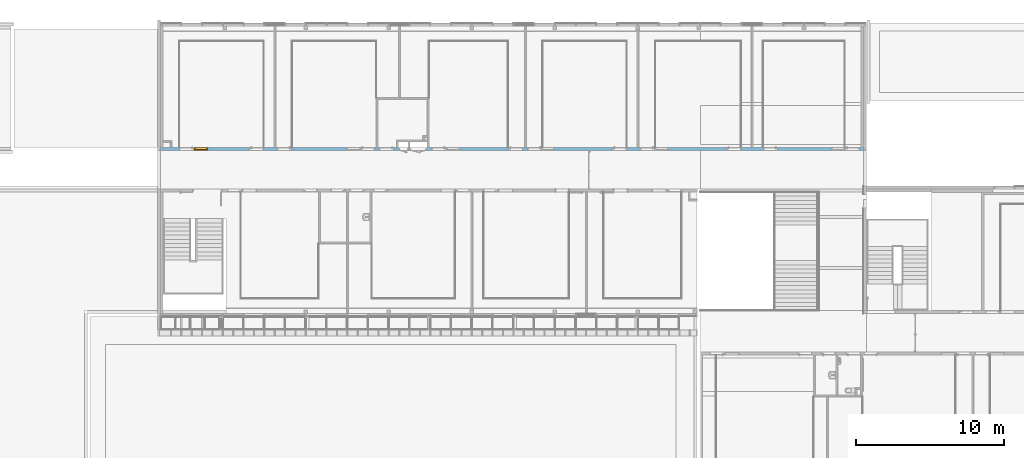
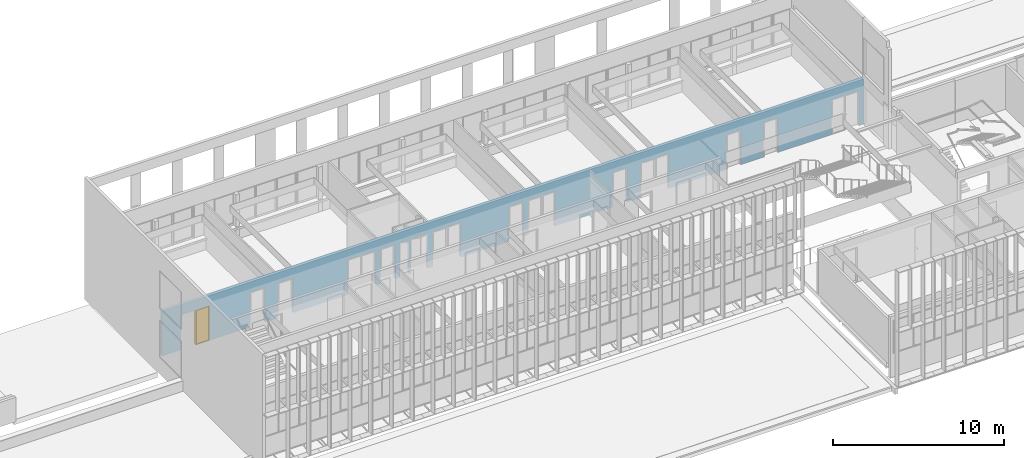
# One storey, part 97 of 106: 1 window, 21 openings, plus 1 element that does not belong to this part.
"""IFC2X3 building model written with IfcOpenShell, lengths in centimetres."""

from ifc_helpers import new_model, entity, si_unit, converted_unit, derived_unit, direction, frame, frame_2d, origin, place, context, subcontext, project, spatial, polyline, rectangle, extrude, clip, bounded_halfspace, faceted_brep, source, transform, mapped, material, material_list, layer, layer_set, layer_usage, type_object, type_shapes, element, fill, save


model = new_model("IFC2X3")

# Units and contexts
model_context = context("Model", 3, precision=0.001, world=origin(), true_north=direction((6.12303176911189e-17, 1.0)))
body_context = subcontext(model_context, "Body", "Model", "MODEL_VIEW")
ifc_project = project(units=[si_unit("LENGTHUNIT", "METRE", prefix="CENTI"), si_unit("AREAUNIT", "SQUARE_METRE"), si_unit("VOLUMEUNIT", "CUBIC_METRE"), converted_unit("PLANEANGLEUNIT", "DEGREE", entity("IfcRatioMeasure", 0.0174532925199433), si_unit("PLANEANGLEUNIT", "RADIAN"), dimensions=[0, 0, 0, 0, 0, 0, 0]), si_unit("MASSUNIT", "GRAM", prefix="KILO"), derived_unit("MASSDENSITYUNIT", [(si_unit("MASSUNIT", "GRAM", prefix="KILO"), 1), (si_unit("LENGTHUNIT", "METRE"), -3)]), si_unit("TIMEUNIT", "SECOND"), si_unit("FREQUENCYUNIT", "HERTZ"), si_unit("THERMODYNAMICTEMPERATUREUNIT", "DEGREE_CELSIUS"), derived_unit("THERMALTRANSMITTANCEUNIT", [(si_unit("MASSUNIT", "GRAM", prefix="KILO"), 1), (si_unit("THERMODYNAMICTEMPERATUREUNIT", "KELVIN"), -1), (si_unit("TIMEUNIT", "SECOND"), -3)]), derived_unit("VOLUMETRICFLOWRATEUNIT", [(si_unit("LENGTHUNIT", "METRE"), 3), (si_unit("TIMEUNIT", "SECOND"), -1)]), si_unit("ELECTRICCURRENTUNIT", "AMPERE"), si_unit("ELECTRICVOLTAGEUNIT", "VOLT"), si_unit("POWERUNIT", "WATT"), si_unit("FORCEUNIT", "NEWTON", prefix="KILO"), si_unit("ILLUMINANCEUNIT", "LUX"), si_unit("LUMINOUSFLUXUNIT", "LUMEN"), si_unit("LUMINOUSINTENSITYUNIT", "CANDELA"), derived_unit("USERDEFINED", [(si_unit("MASSUNIT", "GRAM", prefix="KILO"), -1), (si_unit("LENGTHUNIT", "METRE"), -2), (si_unit("TIMEUNIT", "SECOND"), 3), (si_unit("LUMINOUSFLUXUNIT", "LUMEN"), 1)]), derived_unit("LINEARVELOCITYUNIT", [(si_unit("LENGTHUNIT", "METRE"), 1), (si_unit("TIMEUNIT", "SECOND"), -1)]), si_unit("PRESSUREUNIT", "PASCAL"), derived_unit("USERDEFINED", [(si_unit("LENGTHUNIT", "METRE"), -2), (si_unit("MASSUNIT", "GRAM", prefix="KILO"), 1), (si_unit("TIMEUNIT", "SECOND"), -2)])], contexts=[model_context])

# Site, building, storey
site_placement = place(None, frame((-2781.94577612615, 7442.24238424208, 0.0)))
site = spatial("IfcSite", under=ifc_project, at=site_placement, Name="Default", CompositionType="ELEMENT")
building_placement = place(site_placement, origin())
building = spatial("IfcBuilding", under=site, at=building_placement, CompositionType="ELEMENT")
storey_placement = place(building_placement, frame((0.0, 0.0, 422.0)))
storey = spatial("IfcBuildingStorey", under=building, at=storey_placement, Name="Toiture - Cuisine", CompositionType="ELEMENT", Elevation=421.999999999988)

# Wall, openings, window
ifc_material_1 = material(Name="01 - Maçonnerie")
ifc_layer = layer(ifc_material_1, 20.0)
ifc_layer_set = layer_set([ifc_layer], Name="Mur de base:04 - Structure - béton - 20cm")
ifc_layer_usage = layer_usage(ifc_layer_set, "AXIS2", "NEGATIVE", 10.0)
wall_type = type_object("IfcWallType", Name="Mur de base:04 - Structure - béton - 20cm", PredefinedType="STANDARD", material=ifc_layer_set)
wall_placement = place(building_placement, frame((-8409.49987766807, -820.048500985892, 422.0)))
wall = element("IfcWallStandardCase", 1, at=wall_placement, inside=storey, type_object=wall_type, material=ifc_layer_usage, Name="Mur de base:04 - Structure - béton - 20cm", ObjectType="Mur de base:04 - Structure - béton - 20cm", context=body_context, shape_type="Clipping", body=[
    clip(extrude(rectangle(XDim=4741.49999798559, YDim=20.0, at=frame_2d((2370.74999899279, 2.04281036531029e-14), x_axis=(-1.0, 0.0))), origin(), (0.0, 0.0, 1.0), 321.0), bounded_halfspace(frame((4741.49999798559, -10.0, 321.0), z_axis=(0.0, 0.0, -1.0), x_axis=(0.0, 1.0, 0.0)), True, frame((4741.49999798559, -10.0, 321.0)), polyline([(0.0, 0.0), (0.0, 20.0), (-15.3000000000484, 20.0), (-125.300000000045, 20.0), (-127.300000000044, 20.0), (-675.800000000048, 20.0), (-677.800000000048, 20.0), (-745.800000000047, 20.0), (-755.800000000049, 20.0), (-825.800000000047, 20.0), (-827.800000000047, 20.0), (-1403.80000000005, 20.0), (-1405.80000000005, 20.0), (-1516.49999791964, 20.0), (-1526.49999791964, 20.0), (-1595.78709704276, 20.0), (-1597.78709704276, 20.0), (-2163.80000000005, 20.0), (-2165.80000000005, 20.0), (-2275.80000000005, 20.0), (-2285.80000000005, 20.0), (-2395.80000000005, 20.0), (-2397.80000000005, 20.0), (-2931.80000000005, 20.0), (-2941.80000000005, 20.0), (-3060.80000000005, 20.0), (-3070.80000000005, 20.0), (-3137.80000000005, 20.0), (-3147.80000000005, 20.0), (-3275.80000000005, 20.0), (-3285.80000000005, 20.0), (-3416.49999791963, 20.0), (-3535.80000000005, 20.0), (-3545.80000000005, 20.0), (-3611.80000000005, 20.0), (-3853.80000000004, 20.0), (-3855.80000000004, 20.0), (-3965.80000000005, 20.0), (-3975.80000000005, 20.0), (-4044.30000000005, 20.0), (-4046.30000000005, 20.0), (-4614.19999798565, 20.0), (-4616.19999798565, 20.0), (-4666.19999798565, 20.0), (-4676.19999798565, 20.0), (-4726.19999798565, 20.0), (-4741.49999798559, 20.0), (-4741.49999798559, 0.0), (-1854.0, 0.0), (-1844.0, 0.0), (-1840.0, 0.0), (0.0, 0.0)]))),
])
opening_1_placement = place(wall_placement, frame((1669.50000006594, 10.0, 0.0)))
element("IfcOpeningElement", 2, at=opening_1_placement, cuts=wall, Name="Int. Simple:PP Placard (0.55m x 2.50m):1", ObjectType="Opening", context=body_context, shape_type="SweptSolid", body=[
    extrude(rectangle(XDim=248.500000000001, YDim=61.9999999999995, at=frame_2d((124.250000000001, 30.9999999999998), x_axis=(1.0, 0.0))), frame((0.0, 0.0, 0.0), z_axis=(0.0, -1.0, 0.0), x_axis=(0.0, 0.0, 1.0)), (0.0, 0.0, 1.0), 20.0),
])
opening_2_placement = place(wall_placement, frame((1794.50000006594, 10.0, 0.0)))
element("IfcOpeningElement", 3, at=opening_2_placement, cuts=wall, Name="Int. Double:PP Placard (1.05m x 2.50m):1", ObjectType="Opening", context=body_context, shape_type="SweptSolid", body=[
    extrude(rectangle(XDim=248.500000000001, YDim=112.0, at=frame_2d((124.250000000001, 56.0000000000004), x_axis=(1.0, 0.0))), frame((0.0, 0.0, 0.0), z_axis=(0.0, -1.0, 0.0), x_axis=(0.0, 0.0, 1.0)), (0.0, 0.0, 1.0), 20.0),
])
opening_3_placement = place(wall_placement, frame((126.799999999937, -10.0, 0.0)))
element("IfcOpeningElement", 4, at=opening_3_placement, cuts=wall, Name="Int. Simple:PV (0.93m x 2.50m):1", ObjectType="Opening", context=body_context, shape_type="SweptSolid", body=[
    extrude(rectangle(XDim=248.500000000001, YDim=99.9999999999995, at=frame_2d((124.250000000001, 50.0), x_axis=(1.0, 0.0))), frame((0.0, 0.0, 0.0), z_axis=(0.0, 1.0, 0.0), x_axis=(0.0, 0.0, 1.0)), (0.0, 0.0, 1.0), 20.0),
])
opening_4_placement = place(wall_placement, frame((595.699997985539, -10.0, 0.0)))
element("IfcOpeningElement", 5, at=opening_4_placement, cuts=wall, Name="Int. Simple:PV (0.93m x 2.50m):1", ObjectType="Opening", context=body_context, shape_type="SweptSolid", body=[
    extrude(rectangle(XDim=248.500000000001, YDim=99.9999999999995, at=frame_2d((124.250000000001, 49.9999999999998), x_axis=(1.0, 0.0))), frame((0.0, 0.0, 0.0), z_axis=(0.0, 1.0, 0.0), x_axis=(0.0, 0.0, 1.0)), (0.0, 0.0, 1.0), 20.0),
])
opening_5_placement = place(wall_placement, frame((785.699997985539, -10.0, 0.0)))
element("IfcOpeningElement", 6, at=opening_5_placement, cuts=wall, Name="Int. Simple:PV (0.93m x 2.50m):1", ObjectType="Opening", context=body_context, shape_type="SweptSolid", body=[
    extrude(rectangle(XDim=248.500000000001, YDim=99.9999999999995, at=frame_2d((124.250000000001, 50.0), x_axis=(1.0, 0.0))), frame((0.0, 0.0, 0.0), z_axis=(0.0, 1.0, 0.0), x_axis=(0.0, 0.0, 1.0)), (0.0, 0.0, 1.0), 20.0),
])
opening_6_placement = place(wall_placement, frame((1345.69999798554, -10.0, 0.0)))
element("IfcOpeningElement", 7, at=opening_6_placement, cuts=wall, Name="Int. Simple:PV (0.93m x 2.50m):1", ObjectType="Opening", context=body_context, shape_type="SweptSolid", body=[
    extrude(rectangle(XDim=248.500000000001, YDim=99.9999999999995, at=frame_2d((124.250000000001, 49.9999999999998), x_axis=(1.0, 0.0))), frame((0.0, 0.0, 0.0), z_axis=(0.0, 1.0, 0.0), x_axis=(0.0, 0.0, 1.0)), (0.0, 0.0, 1.0), 20.0),
])
opening_7_placement = place(wall_placement, frame((1475.69999798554, -10.0, 0.0)))
element("IfcOpeningElement", 8, at=opening_7_placement, cuts=wall, Name="Int. Simple:PP simple (0.93m x 2.50m):1", ObjectType="Opening", context=body_context, shape_type="SweptSolid", body=[
    extrude(rectangle(XDim=248.500000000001, YDim=99.9999999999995, at=frame_2d((124.250000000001, 50.0), x_axis=(1.0, 0.0))), frame((0.0, 0.0, 0.0), z_axis=(0.0, 1.0, 0.0), x_axis=(0.0, 0.0, 1.0)), (0.0, 0.0, 1.0), 20.0),
])
opening_8_placement = place(wall_placement, frame((1829.69999798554, -10.0, 0.0)))
element("IfcOpeningElement", 9, at=opening_8_placement, cuts=wall, Name="Int. Simple:PV (0.93m x 2.50m):1", ObjectType="Opening", context=body_context, shape_type="SweptSolid", body=[
    extrude(rectangle(XDim=248.500000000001, YDim=99.9999999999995, at=frame_2d((124.250000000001, 50.0), x_axis=(1.0, 0.0))), frame((0.0, 0.0, 0.0), z_axis=(0.0, 1.0, 0.0), x_axis=(0.0, 0.0, 1.0)), (0.0, 0.0, 1.0), 20.0),
])
opening_9_placement = place(wall_placement, frame((2345.69999798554, -10.0, 0.0)))
element("IfcOpeningElement", 10, at=opening_9_placement, cuts=wall, Name="Int. Simple:PV (0.93m x 2.50m):1", ObjectType="Opening", context=body_context, shape_type="SweptSolid", body=[
    extrude(rectangle(XDim=248.500000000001, YDim=99.9999999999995, at=frame_2d((124.250000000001, 49.9999999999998), x_axis=(1.0, 0.0))), frame((0.0, 0.0, 0.0), z_axis=(0.0, 1.0, 0.0), x_axis=(0.0, 0.0, 1.0)), (0.0, 0.0, 1.0), 20.0),
])
opening_10_placement = place(wall_placement, frame((2475.69999798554, -10.0, 0.0)))
element("IfcOpeningElement", 11, at=opening_10_placement, cuts=wall, Name="Int. Simple:PV (0.93m x 2.50m):1", ObjectType="Opening", context=body_context, shape_type="SweptSolid", body=[
    extrude(rectangle(XDim=248.500000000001, YDim=99.9999999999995, at=frame_2d((124.250000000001, 50.0), x_axis=(1.0, 0.0))), frame((0.0, 0.0, 0.0), z_axis=(0.0, 1.0, 0.0), x_axis=(0.0, 0.0, 1.0)), (0.0, 0.0, 1.0), 20.0),
])
opening_11_placement = place(wall_placement, frame((3045.69999798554, -10.0, 0.0)))
element("IfcOpeningElement", 12, at=opening_11_placement, cuts=wall, Name="Int. Simple:PV (0.93m x 2.50m):1", ObjectType="Opening", context=body_context, shape_type="SweptSolid", body=[
    extrude(rectangle(XDim=248.500000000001, YDim=99.9999999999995, at=frame_2d((124.250000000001, 49.9999999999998), x_axis=(1.0, 0.0))), frame((0.0, 0.0, 0.0), z_axis=(0.0, 1.0, 0.0), x_axis=(0.0, 0.0, 1.0)), (0.0, 0.0, 1.0), 20.0),
])
opening_12_placement = place(wall_placement, frame((3235.69999798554, -10.0, 0.0)))
element("IfcOpeningElement", 13, at=opening_12_placement, cuts=wall, Name="Int. Simple:PV (0.93m x 2.50m):1", ObjectType="Opening", context=body_context, shape_type="SweptSolid", body=[
    extrude(rectangle(XDim=248.500000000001, YDim=99.9999999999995, at=frame_2d((124.250000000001, 50.0), x_axis=(1.0, 0.0))), frame((0.0, 0.0, 0.0), z_axis=(0.0, 1.0, 0.0), x_axis=(0.0, 0.0, 1.0)), (0.0, 0.0, 1.0), 20.0),
])
opening_13_placement = place(wall_placement, frame((3815.69999798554, -10.0, 0.0)))
element("IfcOpeningElement", 14, at=opening_13_placement, cuts=wall, Name="Int. Simple:PV (0.93m x 2.50m):1", ObjectType="Opening", context=body_context, shape_type="SweptSolid", body=[
    extrude(rectangle(XDim=248.500000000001, YDim=99.9999999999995, at=frame_2d((124.250000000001, 49.9999999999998), x_axis=(1.0, 0.0))), frame((0.0, 0.0, 0.0), z_axis=(0.0, 1.0, 0.0), x_axis=(0.0, 0.0, 1.0)), (0.0, 0.0, 1.0), 20.0),
])
opening_14_placement = place(wall_placement, frame((4065.69999798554, -10.0, 0.0)))
element("IfcOpeningElement", 15, at=opening_14_placement, cuts=wall, Name="Int. Simple:PV (0.93m x 2.50m):1", ObjectType="Opening", context=body_context, shape_type="SweptSolid", body=[
    extrude(rectangle(XDim=248.500000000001, YDim=99.9999999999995, at=frame_2d((124.250000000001, 50.0), x_axis=(1.0, 0.0))), frame((0.0, 0.0, 0.0), z_axis=(0.0, 1.0, 0.0), x_axis=(0.0, 0.0, 1.0)), (0.0, 0.0, 1.0), 20.0),
])
opening_15_placement = place(wall_placement, frame((4616.19999798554, -10.0, 0.0)))
element("IfcOpeningElement", 16, at=opening_15_placement, cuts=wall, Name="Int. Simple:PV (0.93m x 2.50m):1", ObjectType="Opening", context=body_context, shape_type="SweptSolid", body=[
    extrude(rectangle(XDim=248.500000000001, YDim=99.9999999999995, at=frame_2d((124.250000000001, 49.9999999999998), x_axis=(1.0, 0.0))), frame((0.0, 0.0, 0.0), z_axis=(0.0, 1.0, 0.0), x_axis=(0.0, 0.0, 1.0)), (0.0, 0.0, 1.0), 20.0),
])
opening_16_placement = place(wall_placement, frame((1255.69999798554, -10.0, 0.0)))
element("IfcOpeningElement", 17, at=opening_16_placement, cuts=wall, Name="châssis intérieur vitré:châssis intérieur vitré (h=270) R+1:1", ObjectType="Opening", context=body_context, shape_type="SweptSolid", body=[
    extrude(rectangle(XDim=250.0, YDim=89.9999999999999, at=frame_2d((125.0, 45.0), x_axis=(1.0, 0.0))), frame((0.0, 0.0, 0.0), z_axis=(0.0, 1.0, 0.0), x_axis=(0.0, 0.0, 1.0)), (0.0, 0.0, 1.0), 20.0),
])
opening_17_placement = place(wall_placement, frame((1929.69999798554, -10.0, 0.0)))
element("IfcOpeningElement", 18, at=opening_17_placement, cuts=wall, Name="châssis intérieur vitré:châssis intérieur vitré (h=270) R+1:1", ObjectType="Opening", context=body_context, shape_type="SweptSolid", body=[
    extrude(rectangle(XDim=250.0, YDim=89.9999999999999, at=frame_2d((125.0, 45.0), x_axis=(1.0, 0.0))), frame((0.0, 0.0, 0.0), z_axis=(0.0, 1.0, 0.0), x_axis=(0.0, 0.0, 1.0)), (0.0, 0.0, 1.0), 20.0),
])
opening_18_placement = place(wall_placement, frame((4526.19999798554, -10.0, 0.0)))
element("IfcOpeningElement", 19, at=opening_18_placement, cuts=wall, Name="châssis intérieur vitré:châssis intérieur vitré (h=270) R+1:1", ObjectType="Opening", context=body_context, shape_type="SweptSolid", body=[
    extrude(rectangle(XDim=250.0, YDim=89.9999999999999, at=frame_2d((125.0, 45.0000000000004), x_axis=(1.0, 0.0))), frame((0.0, 0.0, 0.0), z_axis=(0.0, 1.0, 0.0), x_axis=(0.0, 0.0, 1.0)), (0.0, 0.0, 1.0), 20.0),
])
opening_19_placement = place(wall_placement, frame((3335.69999798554, -10.0, 0.0)))
element("IfcOpeningElement", 20, at=opening_19_placement, cuts=wall, Name="châssis intérieur vitré:châssis intérieur vitré (h=270) R+1:1", ObjectType="Opening", context=body_context, shape_type="SweptSolid", body=[
    extrude(rectangle(XDim=250.0, YDim=89.9999999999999, at=frame_2d((125.0, 45.0000000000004), x_axis=(1.0, 0.0))), frame((0.0, 0.0, 0.0), z_axis=(0.0, 1.0, 0.0), x_axis=(0.0, 0.0, 1.0)), (0.0, 0.0, 1.0), 20.0),
])
opening_20_placement = place(wall_placement, frame((2565.69999798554, -10.0, 0.0)))
element("IfcOpeningElement", 21, at=opening_20_placement, cuts=wall, Name="châssis intérieur vitré:châssis intérieur vitré (h=270) R+1:1", ObjectType="Opening", context=body_context, shape_type="SweptSolid", body=[
    extrude(rectangle(XDim=250.0, YDim=89.9999999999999, at=frame_2d((125.0, 45.0000000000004), x_axis=(1.0, 0.0))), frame((0.0, 0.0, 0.0), z_axis=(0.0, 1.0, 0.0), x_axis=(0.0, 0.0, 1.0)), (0.0, 0.0, 1.0), 20.0),
])
opening_21_placement = place(wall_placement, frame((226.799999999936, -10.0, 0.0)))
opening_21 = element("IfcOpeningElement", 22, at=opening_21_placement, cuts=wall, Name="châssis intérieur vitré:châssis intérieur vitré (h=270) R+1:1", ObjectType="Opening", context=body_context, shape_type="SweptSolid", body=[
    extrude(rectangle(XDim=250.0, YDim=91.4999999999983, at=frame_2d((125.0, 45.7499999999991), x_axis=(1.0, 0.0))), frame((0.0, 0.0, 0.0), z_axis=(0.0, 1.0, 0.0), x_axis=(0.0, 0.0, 1.0)), (0.0, 0.0, 1.0), 20.0),
])
ifc_material_2 = material(Name="Verre")
ifc_material_3 = material(Name="huisserie bois")
ifc_material_list_1 = material_list([ifc_material_2, ifc_material_3])
ifc_material_list_2 = material_list([ifc_material_2, ifc_material_3])
window_style = type_object("IfcWindowStyle", Name="châssis intérieur vitré (h=270) R+1", ConstructionType="NOTDEFINED", OperationType="NOTDEFINED", ParameterTakesPrecedence=False, Sizeable=False, material=ifc_material_list_2)
shared_shape = source(origin(), body_context, "Body", "Brep", [
    faceted_brep([(3.0, 5.0, 247.0), (88.4999999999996, 5.0, 247.0), (88.4999999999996, 5.0, 3.0), (3.0, 5.0, 3.0), (3.0, 2.0, 3.0), (3.0, 2.0, 247.0), (88.4999999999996, 2.0, 3.0), (88.4999999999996, 2.0, 247.0)], [[[0, 1, 2, 3]], [[3, 4, 5, 0]], [[2, 6, 4, 3]], [[1, 7, 6, 2]], [[5, 4, 6, 7]], [[0, 5, 7, 1]]]),
    faceted_brep([(3.0, 2.0, 247.0), (3.0, 2.0, 3.0), (3.0, 0.0, 3.0), (3.0, 0.0, 247.0), (88.4999999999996, 0.0, 3.0), (88.4999999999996, 0.0, 247.0), (5.0, 0.0, 5.0), (5.0, 0.0, 245.0), (86.4999999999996, 0.0, 245.0), (86.4999999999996, 0.0, 5.0), (88.4999999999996, 2.0, 3.0), (88.4999999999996, 2.0, 247.0), (5.0, 2.0, 245.0), (5.0, 2.0, 5.0), (86.4999999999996, 2.0, 5.0), (86.4999999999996, 2.0, 245.0)], [[[0, 1, 2, 3]], [[3, 2, 4, 5], [6, 7, 8, 9]], [[1, 10, 4, 2]], [[1, 0, 11, 10], [12, 13, 14, 15]], [[7, 6, 13, 12]], [[6, 9, 14, 13]], [[10, 11, 5, 4]], [[9, 8, 15, 14]], [[11, 0, 3, 5]], [[8, 7, 12, 15]]]),
    faceted_brep([(5.0, 5.0, 245.0), (5.0, 5.0, 5.0), (5.0, 20.0, 5.0), (5.0, 20.0, 245.0), (86.4999999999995, 20.0, 5.0), (86.4999999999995, 20.0, 245.0), (0.0, 20.0, 0.0), (0.0, 20.0, 250.0), (91.4999999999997, 20.0, 250.0), (91.4999999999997, 20.0, 0.0), (86.4999999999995, 5.0, 5.0), (86.4999999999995, 5.0, 245.0), (3.0, 5.0, 247.0), (3.0, 5.0, 3.0), (88.4999999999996, 5.0, 3.0), (88.4999999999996, 5.0, 247.0), (3.0, 0.0, 247.0), (3.0, 0.0, 3.0), (88.4999999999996, 0.0, 3.0), (88.4999999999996, 0.0, 247.0), (0.0, 0.0, 250.0), (0.0, 0.0, 0.0), (91.4999999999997, 0.0, 0.0), (91.4999999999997, 0.0, 250.0)], [[[0, 1, 2, 3]], [[3, 2, 4, 5], [6, 7, 8, 9]], [[1, 10, 4, 2]], [[1, 0, 11, 10], [12, 13, 14, 15]], [[16, 17, 13, 12]], [[17, 18, 14, 13]], [[17, 16, 19, 18], [20, 21, 22, 23]], [[7, 6, 21, 20]], [[6, 9, 22, 21]], [[10, 11, 5, 4]], [[18, 19, 15, 14]], [[9, 8, 23, 22]], [[11, 0, 3, 5]], [[19, 16, 12, 15]], [[8, 7, 20, 23]]], outer=[[True], [False, True], [True], [False, True], [True], [True], [False, True], [True], [True], [True], [True], [True], [True], [True], [True]]),
])
type_shapes(window_style, [shared_shape])
window_placement = place(opening_21_placement, origin())
window = element("IfcWindow", 23, at=window_placement, inside=storey, type_object=window_style, material=ifc_material_list_1, Name="châssis intérieur vitré:châssis intérieur vitré (h=270) R+1", ObjectType="châssis intérieur vitré:châssis intérieur vitré (h=270) R+1", OverallHeight=250.0, OverallWidth=91.4999999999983, context=body_context, shape_type="MappedRepresentation", body=[
    mapped(shared_shape, transform((0.0, 0.0, 0.0), scale=1.0)),
])
fill(opening_21, window)

save(model, "model.ifc")
